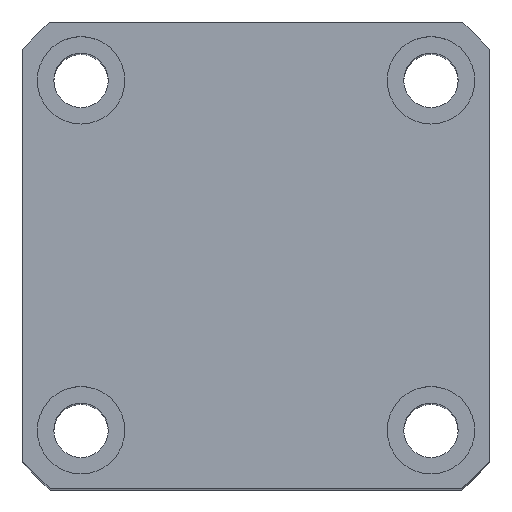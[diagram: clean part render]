
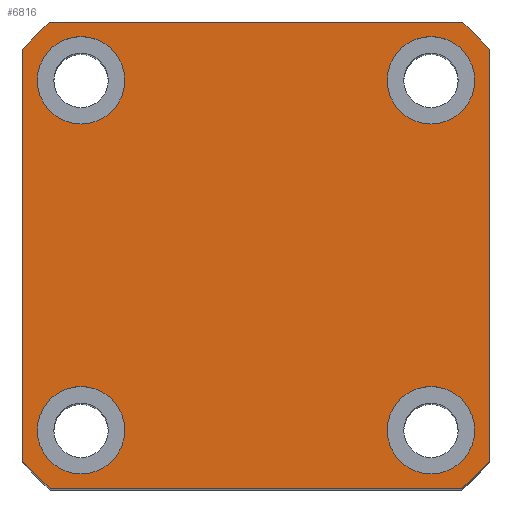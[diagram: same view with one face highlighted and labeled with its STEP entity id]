
A CAD part, top view. The second image highlights one B-rep face of the part: STEP entity #6816.
In plain terms, the highlighted planar face has unit normal (0, 0, 1) as drawn and (1, 0, 0) by its records, which use the part's own axes.
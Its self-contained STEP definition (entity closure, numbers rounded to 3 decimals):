
#111 = DIRECTION ( 'NONE',  ( 0., 0., -1. ) ) ;
#144 = DIRECTION ( 'NONE',  ( 0., 0., -1. ) ) ;
#218 = EDGE_CURVE ( 'NONE', #2162, #5151, #3642, .T. ) ;
#231 = CARTESIAN_POINT ( 'NONE',  ( 85., 18., -13.5 ) ) ;
#278 = DIRECTION ( 'NONE',  ( 0., 0., -1. ) ) ;
#555 = CARTESIAN_POINT ( 'NONE',  ( 85., 18., 13.5 ) ) ;
#668 = VERTEX_POINT ( 'NONE', #4522 ) ;
#686 = DIRECTION ( 'NONE',  ( 1., 0., 0. ) ) ;
#720 = AXIS2_PLACEMENT_3D ( 'NONE', #4045, #4030, #3769 ) ;
#774 = EDGE_CURVE ( 'NONE', #6975, #1208, #3744, .T. ) ;
#816 = EDGE_CURVE ( 'NONE', #7473, #1468, #3540, .T. ) ;
#878 = DIRECTION ( 'NONE',  ( 0., 1., 0. ) ) ;
#911 = VERTEX_POINT ( 'NONE', #2731 ) ;
#953 = CARTESIAN_POINT ( 'NONE',  ( 85., 0., 0. ) ) ;
#965 = EDGE_CURVE ( 'NONE', #1208, #6975, #3165, .T. ) ;
#1076 = EDGE_LOOP ( 'NONE', ( #2078, #5555 ) ) ;
#1112 = EDGE_CURVE ( 'NONE', #3128, #7309, #4632, .T. ) ;
#1138 = FACE_BOUND ( 'NONE', #3520, .T. ) ;
#1151 = CARTESIAN_POINT ( 'NONE',  ( 85., 21.166, -24. ) ) ;
#1163 = CARTESIAN_POINT ( 'NONE',  ( 85., -18., 13.5 ) ) ;
#1208 = VERTEX_POINT ( 'NONE', #1163 ) ;
#1446 = DIRECTION ( 'NONE',  ( 0., 0., -1. ) ) ;
#1452 = DIRECTION ( 'NONE',  ( 1., 0., 0. ) ) ;
#1462 = CARTESIAN_POINT ( 'NONE',  ( 85., -18., -18. ) ) ;
#1468 = VERTEX_POINT ( 'NONE', #231 ) ;
#1475 = ORIENTED_EDGE ( 'NONE', *, *, #218, .F. ) ;
#1548 = DIRECTION ( 'NONE',  ( 0., -1., 0. ) ) ;
#1560 = CARTESIAN_POINT ( 'NONE',  ( 85., 24., -24. ) ) ;
#1605 = DIRECTION ( 'NONE',  ( 0., 0., -1. ) ) ;
#1628 = AXIS2_PLACEMENT_3D ( 'NONE', #2539, #2545, #2565 ) ;
#1642 = EDGE_CURVE ( 'NONE', #4042, #911, #3443, .T. ) ;
#1643 = DIRECTION ( 'NONE',  ( 1., 0., 0. ) ) ;
#1670 = ORIENTED_EDGE ( 'NONE', *, *, #1642, .T. ) ;
#1694 = DIRECTION ( 'NONE',  ( 0., 0., 1. ) ) ;
#1806 = VECTOR ( 'NONE', #878, 1000. ) ;
#2078 = ORIENTED_EDGE ( 'NONE', *, *, #1112, .F. ) ;
#2162 = VERTEX_POINT ( 'NONE', #555 ) ;
#2349 = VERTEX_POINT ( 'NONE', #6163 ) ;
#2356 = ORIENTED_EDGE ( 'NONE', *, *, #774, .F. ) ;
#2381 = CARTESIAN_POINT ( 'NONE',  ( 85., -18., 18. ) ) ;
#2406 = DIRECTION ( 'NONE',  ( 0., 0., -1. ) ) ;
#2414 = DIRECTION ( 'NONE',  ( 1., 0., 0. ) ) ;
#2539 = CARTESIAN_POINT ( 'NONE',  ( 85., 18., -18. ) ) ;
#2545 = DIRECTION ( 'NONE',  ( 1., 0., 0. ) ) ;
#2565 = DIRECTION ( 'NONE',  ( 0., 0., -1. ) ) ;
#2640 = FACE_OUTER_BOUND ( 'NONE', #5089, .T. ) ;
#2731 = CARTESIAN_POINT ( 'NONE',  ( 85., 24., -21.166 ) ) ;
#2795 = AXIS2_PLACEMENT_3D ( 'NONE', #3609, #3583, #3556 ) ;
#2895 = CARTESIAN_POINT ( 'NONE',  ( 85., 0., 0. ) ) ;
#2924 = EDGE_CURVE ( 'NONE', #6290, #4042, #3445, .T. ) ;
#3128 = VERTEX_POINT ( 'NONE', #4354 ) ;
#3148 = EDGE_CURVE ( 'NONE', #6256, #2349, #4314, .T. ) ;
#3165 = CIRCLE ( 'NONE', #3705, 4.5 ) ;
#3209 = CARTESIAN_POINT ( 'NONE',  ( 85., 18., 18. ) ) ;
#3267 = VECTOR ( 'NONE', #1548, 1000. ) ;
#3443 = CIRCLE ( 'NONE', #720, 32. ) ;
#3445 = LINE ( 'NONE', #1560, #1806 ) ;
#3464 = CARTESIAN_POINT ( 'NONE',  ( 85., -18., 18. ) ) ;
#3509 = DIRECTION ( 'NONE',  ( 0., 0., -1. ) ) ;
#3520 = EDGE_LOOP ( 'NONE', ( #7299, #5870 ) ) ;
#3539 = AXIS2_PLACEMENT_3D ( 'NONE', #953, #5347, #1605 ) ;
#3540 = CIRCLE ( 'NONE', #1628, 4.5 ) ;
#3556 = DIRECTION ( 'NONE',  ( 0., 0., -1. ) ) ;
#3583 = DIRECTION ( 'NONE',  ( 1., 0., 0. ) ) ;
#3609 = CARTESIAN_POINT ( 'NONE',  ( 85., 0., 0. ) ) ;
#3642 = CIRCLE ( 'NONE', #5701, 4.5 ) ;
#3705 = AXIS2_PLACEMENT_3D ( 'NONE', #2381, #2414, #2406 ) ;
#3744 = CIRCLE ( 'NONE', #6385, 4.5 ) ;
#3769 = DIRECTION ( 'NONE',  ( 0., 0., -1. ) ) ;
#3824 = PLANE ( 'NONE',  #7508 ) ;
#3896 = CARTESIAN_POINT ( 'NONE',  ( 85., -24., 24. ) ) ;
#3910 = VERTEX_POINT ( 'NONE', #5237 ) ;
#3925 = DIRECTION ( 'NONE',  ( 1., 0., 0. ) ) ;
#3956 = CARTESIAN_POINT ( 'NONE',  ( 85., -18., 22.5 ) ) ;
#4030 = DIRECTION ( 'NONE',  ( 1., 0., 0. ) ) ;
#4042 = VERTEX_POINT ( 'NONE', #1151 ) ;
#4045 = CARTESIAN_POINT ( 'NONE',  ( 85., 0., 0. ) ) ;
#4054 = DIRECTION ( 'NONE',  ( 1., 0., 0. ) ) ;
#4145 = CIRCLE ( 'NONE', #3539, 32. ) ;
#4166 = VECTOR ( 'NONE', #1694, 1000. ) ;
#4233 = EDGE_LOOP ( 'NONE', ( #1475, #4594 ) ) ;
#4275 = FACE_BOUND ( 'NONE', #4233, .T. ) ;
#4314 = CIRCLE ( 'NONE', #2795, 32. ) ;
#4354 = CARTESIAN_POINT ( 'NONE',  ( 85., -18., -22.5 ) ) ;
#4388 = EDGE_CURVE ( 'NONE', #1468, #7473, #7916, .T. ) ;
#4451 = CARTESIAN_POINT ( 'NONE',  ( 85., 0., 0. ) ) ;
#4488 = FACE_BOUND ( 'NONE', #5357, .T. ) ;
#4499 = CARTESIAN_POINT ( 'NONE',  ( 85., -18., -13.5 ) ) ;
#4522 = CARTESIAN_POINT ( 'NONE',  ( 85., -21.166, 24. ) ) ;
#4594 = ORIENTED_EDGE ( 'NONE', *, *, #5437, .F. ) ;
#4632 = CIRCLE ( 'NONE', #5390, 4.5 ) ;
#4659 = AXIS2_PLACEMENT_3D ( 'NONE', #3209, #4054, #278 ) ;
#4696 = EDGE_CURVE ( 'NONE', #4928, #3910, #6413, .T. ) ;
#4713 = CARTESIAN_POINT ( 'NONE',  ( 85., 18., -22.5 ) ) ;
#4928 = VERTEX_POINT ( 'NONE', #7132 ) ;
#4934 = VECTOR ( 'NONE', #111, 1000. ) ;
#4959 = EDGE_CURVE ( 'NONE', #3910, #6290, #4145, .T. ) ;
#5088 = DIRECTION ( 'NONE',  ( 0., 0., -1. ) ) ;
#5089 = EDGE_LOOP ( 'NONE', ( #7856, #1670, #6819, #6923, #5464, #7304, #7490, #7692 ) ) ;
#5151 = VERTEX_POINT ( 'NONE', #6485 ) ;
#5237 = CARTESIAN_POINT ( 'NONE',  ( 85., -24., -21.166 ) ) ;
#5347 = DIRECTION ( 'NONE',  ( 1., 0., 0. ) ) ;
#5357 = EDGE_LOOP ( 'NONE', ( #5766, #2356 ) ) ;
#5376 = CARTESIAN_POINT ( 'NONE',  ( 85., -18., -18. ) ) ;
#5390 = AXIS2_PLACEMENT_3D ( 'NONE', #1462, #1452, #1446 ) ;
#5405 = AXIS2_PLACEMENT_3D ( 'NONE', #7639, #3925, #144 ) ;
#5437 = EDGE_CURVE ( 'NONE', #5151, #2162, #7537, .T. ) ;
#5464 = ORIENTED_EDGE ( 'NONE', *, *, #6565, .T. ) ;
#5530 = EDGE_CURVE ( 'NONE', #668, #4928, #5720, .T. ) ;
#5555 = ORIENTED_EDGE ( 'NONE', *, *, #7932, .F. ) ;
#5701 = AXIS2_PLACEMENT_3D ( 'NONE', #6721, #6726, #6727 ) ;
#5720 = CIRCLE ( 'NONE', #6333, 32. ) ;
#5766 = ORIENTED_EDGE ( 'NONE', *, *, #965, .F. ) ;
#5870 = ORIENTED_EDGE ( 'NONE', *, *, #4388, .F. ) ;
#5908 = DIRECTION ( 'NONE',  ( 1., 0., 0. ) ) ;
#5953 = FACE_BOUND ( 'NONE', #1076, .T. ) ;
#5983 = DIRECTION ( 'NONE',  ( 0., 0., -1. ) ) ;
#6001 = DIRECTION ( 'NONE',  ( 0., 0., -1. ) ) ;
#6032 = LINE ( 'NONE', #7289, #4166 ) ;
#6163 = CARTESIAN_POINT ( 'NONE',  ( 85., 21.166, 24. ) ) ;
#6193 = CARTESIAN_POINT ( 'NONE',  ( 85., -21.166, -24. ) ) ;
#6256 = VERTEX_POINT ( 'NONE', #7998 ) ;
#6290 = VERTEX_POINT ( 'NONE', #6193 ) ;
#6333 = AXIS2_PLACEMENT_3D ( 'NONE', #2895, #7243, #3509 ) ;
#6385 = AXIS2_PLACEMENT_3D ( 'NONE', #3464, #5908, #5983 ) ;
#6397 = LINE ( 'NONE', #7122, #3267 ) ;
#6413 = LINE ( 'NONE', #3896, #4934 ) ;
#6485 = CARTESIAN_POINT ( 'NONE',  ( 85., 18., 22.5 ) ) ;
#6565 = EDGE_CURVE ( 'NONE', #2349, #668, #6397, .T. ) ;
#6721 = CARTESIAN_POINT ( 'NONE',  ( 85., 18., 18. ) ) ;
#6726 = DIRECTION ( 'NONE',  ( 1., 0., 0. ) ) ;
#6727 = DIRECTION ( 'NONE',  ( 0., 0., -1. ) ) ;
#6816 = ADVANCED_FACE ( 'NONE', ( #5953, #4488, #1138, #4275, #2640 ), #3824, .T. ) ;
#6819 = ORIENTED_EDGE ( 'NONE', *, *, #7980, .T. ) ;
#6923 = ORIENTED_EDGE ( 'NONE', *, *, #3148, .T. ) ;
#6975 = VERTEX_POINT ( 'NONE', #3956 ) ;
#7122 = CARTESIAN_POINT ( 'NONE',  ( 85., 24., 24. ) ) ;
#7132 = CARTESIAN_POINT ( 'NONE',  ( 85., -24., 21.166 ) ) ;
#7243 = DIRECTION ( 'NONE',  ( 1., 0., 0. ) ) ;
#7289 = CARTESIAN_POINT ( 'NONE',  ( 85., 24., 24. ) ) ;
#7299 = ORIENTED_EDGE ( 'NONE', *, *, #816, .F. ) ;
#7304 = ORIENTED_EDGE ( 'NONE', *, *, #5530, .T. ) ;
#7309 = VERTEX_POINT ( 'NONE', #4499 ) ;
#7473 = VERTEX_POINT ( 'NONE', #4713 ) ;
#7490 = ORIENTED_EDGE ( 'NONE', *, *, #4696, .T. ) ;
#7508 = AXIS2_PLACEMENT_3D ( 'NONE', #4451, #686, #5088 ) ;
#7537 = CIRCLE ( 'NONE', #4659, 4.5 ) ;
#7639 = CARTESIAN_POINT ( 'NONE',  ( 85., 18., -18. ) ) ;
#7671 = CIRCLE ( 'NONE', #7894, 4.5 ) ;
#7692 = ORIENTED_EDGE ( 'NONE', *, *, #4959, .T. ) ;
#7856 = ORIENTED_EDGE ( 'NONE', *, *, #2924, .T. ) ;
#7894 = AXIS2_PLACEMENT_3D ( 'NONE', #5376, #1643, #6001 ) ;
#7916 = CIRCLE ( 'NONE', #5405, 4.5 ) ;
#7932 = EDGE_CURVE ( 'NONE', #7309, #3128, #7671, .T. ) ;
#7980 = EDGE_CURVE ( 'NONE', #911, #6256, #6032, .T. ) ;
#7998 = CARTESIAN_POINT ( 'NONE',  ( 85., 24., 21.166 ) ) ;
